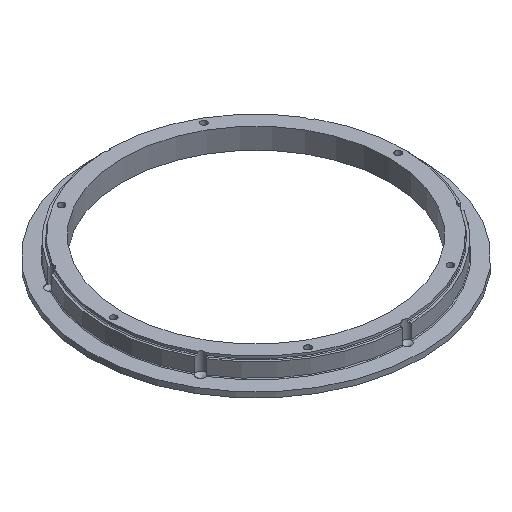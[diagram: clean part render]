
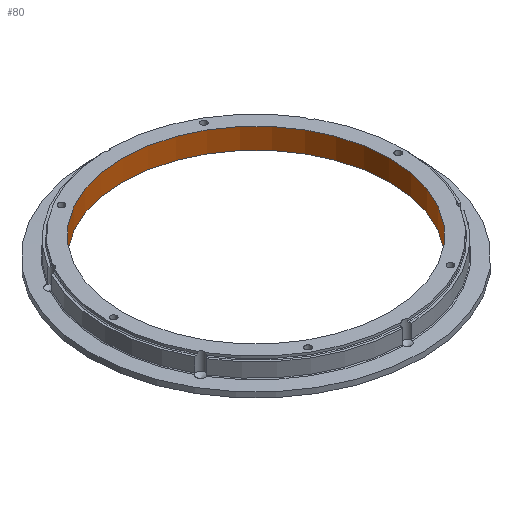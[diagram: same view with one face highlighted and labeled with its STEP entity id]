
A CAD part, isometric view. The second image highlights one B-rep face of the part: STEP entity #80.
In plain terms, the highlighted cylindrical face has radius 90 mm (diameter 180 mm), a full revolution.
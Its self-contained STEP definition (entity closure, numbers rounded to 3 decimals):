
#80 = ADVANCED_FACE( '', ( #209, #210 ), #211, .F. );
#209 = FACE_OUTER_BOUND( '', #416, .T. );
#210 = FACE_OUTER_BOUND( '', #417, .T. );
#211 = CYLINDRICAL_SURFACE( '', #418, 90. );
#416 = EDGE_LOOP( '', ( #617 ) );
#417 = EDGE_LOOP( '', ( #618 ) );
#418 = AXIS2_PLACEMENT_3D( '', #619, #620, #621 );
#617 = ORIENTED_EDGE( '', *, *, #1137, .T. );
#618 = ORIENTED_EDGE( '', *, *, #1138, .F. );
#619 = CARTESIAN_POINT( '', ( 0., 0., 54. ) );
#620 = DIRECTION( '', ( 0., 0., 1. ) );
#621 = DIRECTION( '', ( -1., 0., 0. ) );
#1137 = EDGE_CURVE( '', #1344, #1344, #1345, .T. );
#1138 = EDGE_CURVE( '', #1346, #1346, #1347, .T. );
#1344 = VERTEX_POINT( '', #1648 );
#1345 = CIRCLE( '', #1649, 90. );
#1346 = VERTEX_POINT( '', #1650 );
#1347 = CIRCLE( '', #1651, 90. );
#1648 = CARTESIAN_POINT( '', ( -90., 0., 2. ) );
#1649 = AXIS2_PLACEMENT_3D( '', #2185, #2186, #2187 );
#1650 = CARTESIAN_POINT( '', ( -90., 0., 16. ) );
#1651 = AXIS2_PLACEMENT_3D( '', #2188, #2189, #2190 );
#2185 = CARTESIAN_POINT( '', ( 0., 0., 2. ) );
#2186 = DIRECTION( '', ( 0., 0., -1. ) );
#2187 = DIRECTION( '', ( -1., 0., 0. ) );
#2188 = CARTESIAN_POINT( '', ( 0., 0., 16. ) );
#2189 = DIRECTION( '', ( 0., 0., -1. ) );
#2190 = DIRECTION( '', ( -1., 0., 0. ) );
